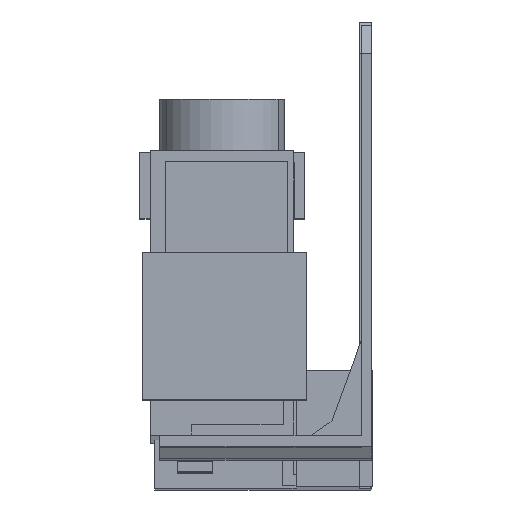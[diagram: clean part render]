
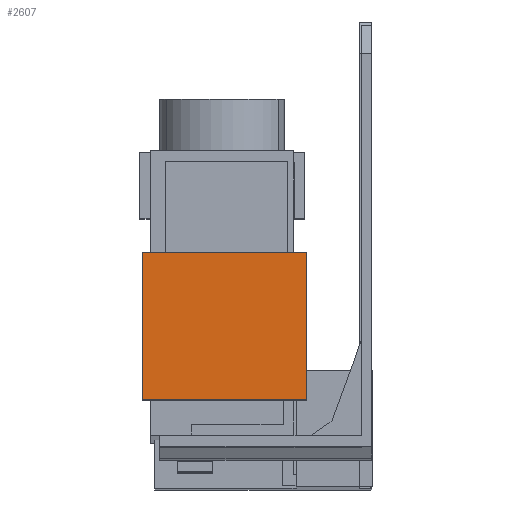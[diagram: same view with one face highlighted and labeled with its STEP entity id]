
A CAD part, front view. The second image highlights one B-rep face of the part: STEP entity #2607.
In plain terms, the highlighted planar face has unit normal (0, -1, 0.003).
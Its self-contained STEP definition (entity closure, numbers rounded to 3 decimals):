
#393 = VERTEX_POINT ( 'NONE', #3200 ) ;
#394 = VERTEX_POINT ( 'NONE', #3201 ) ;
#395 = VERTEX_POINT ( 'NONE', #3202 ) ;
#396 = VERTEX_POINT ( 'NONE', #3203 ) ;
#1008 = CARTESIAN_POINT ( 'NONE',  ( -9.3, -31.509, -40.315 ) ) ;
#1009 = DIRECTION ( 'NONE',  ( -1., 0., 0. ) ) ;
#1372 = VECTOR ( 'NONE', #6911, 1000. ) ;
#1373 = LINE ( 'NONE', #6910, #1372 ) ;
#1584 = LINE ( 'NONE', #7192, #1595 ) ;
#1595 = VECTOR ( 'NONE', #7195, 1000. ) ;
#2366 = LINE ( 'NONE', #1008, #2367 ) ;
#2367 = VECTOR ( 'NONE', #1009, 1000. ) ;
#2607 = ADVANCED_FACE ( 'NONE', ( #5065 ), #3545, .T. ) ;
#3200 = CARTESIAN_POINT ( 'NONE',  ( -32.7, -31.452, -19.316 ) ) ;
#3201 = CARTESIAN_POINT ( 'NONE',  ( -9.3, -31.452, -19.316 ) ) ;
#3202 = CARTESIAN_POINT ( 'NONE',  ( -9.3, -31.509, -40.315 ) ) ;
#3203 = CARTESIAN_POINT ( 'NONE',  ( -32.7, -31.509, -40.315 ) ) ;
#3545 = PLANE ( 'NONE',  #7745 ) ;
#3548 = CARTESIAN_POINT ( 'NONE',  ( -9.3, -31.509, -40.315 ) ) ;
#3554 = DIRECTION ( 'NONE',  ( 0., -1., 0.003 ) ) ;
#3555 = DIRECTION ( 'NONE',  ( 1., 0., 0. ) ) ;
#5065 = FACE_OUTER_BOUND ( 'NONE', #8936, .T. ) ;
#5521 = LINE ( 'NONE', #6800, #5522 ) ;
#5522 = VECTOR ( 'NONE', #6801, 1000. ) ;
#6165 = EDGE_CURVE ( 'NONE', #395, #394, #5521, .T. ) ;
#6214 = EDGE_CURVE ( 'NONE', #396, #393, #1373, .T. ) ;
#6340 = EDGE_CURVE ( 'NONE', #394, #393, #1584, .T. ) ;
#6800 = CARTESIAN_POINT ( 'NONE',  ( -9.3, -31.509, -40.315 ) ) ;
#6801 = DIRECTION ( 'NONE',  ( 0., 0.003, 1. ) ) ;
#6910 = CARTESIAN_POINT ( 'NONE',  ( -32.7, -31.509, -40.315 ) ) ;
#6911 = DIRECTION ( 'NONE',  ( 0., 0.003, 1. ) ) ;
#7192 = CARTESIAN_POINT ( 'NONE',  ( -9.3, -31.452, -19.316 ) ) ;
#7195 = DIRECTION ( 'NONE',  ( -1., 0., 0. ) ) ;
#7745 = AXIS2_PLACEMENT_3D ( 'NONE', #3548, #3554, #3555 ) ;
#8352 = EDGE_CURVE ( 'NONE', #395, #396, #2366, .T. ) ;
#8651 = ORIENTED_EDGE ( 'NONE', *, *, #6340, .T. ) ;
#8652 = ORIENTED_EDGE ( 'NONE', *, *, #6214, .F. ) ;
#8653 = ORIENTED_EDGE ( 'NONE', *, *, #8352, .F. ) ;
#8654 = ORIENTED_EDGE ( 'NONE', *, *, #6165, .T. ) ;
#8936 = EDGE_LOOP ( 'NONE', ( #8651, #8652, #8653, #8654 ) ) ;
